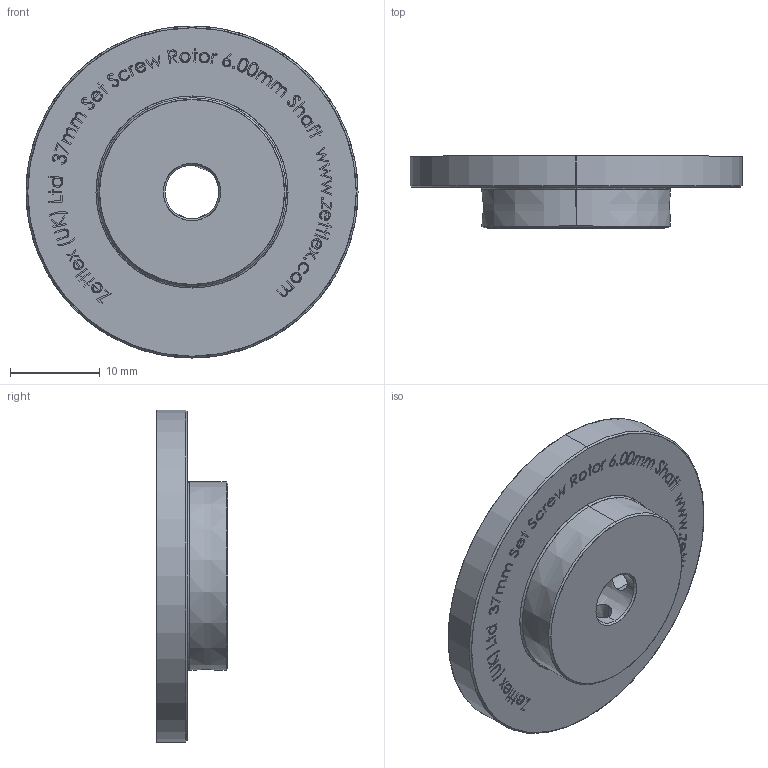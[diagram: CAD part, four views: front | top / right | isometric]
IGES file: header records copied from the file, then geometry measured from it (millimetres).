
Start section: SolidWorks IGES file using analytic representation for surfaces
Global section: file name: C:\Zettlex Data\Mechanical Drawings\4114\37mm Set Screw Rotor 6.00mm Shaft Rev 1-0.IGS; native system: SolidWorks 2015; preprocessor: SolidWorks 2015; author: Nigel; date: 150904.162123; units: millimetre
Bounding box: 37 x 8 x 37 mm (x, y, z)
Surface area: 3054 mm2 (no closed solid volume)
Topology: 0 solids, 0 shells, 785 faces, 8737 edges, 8737 vertices
Faces by surface type: bspline 761, revolution 24
